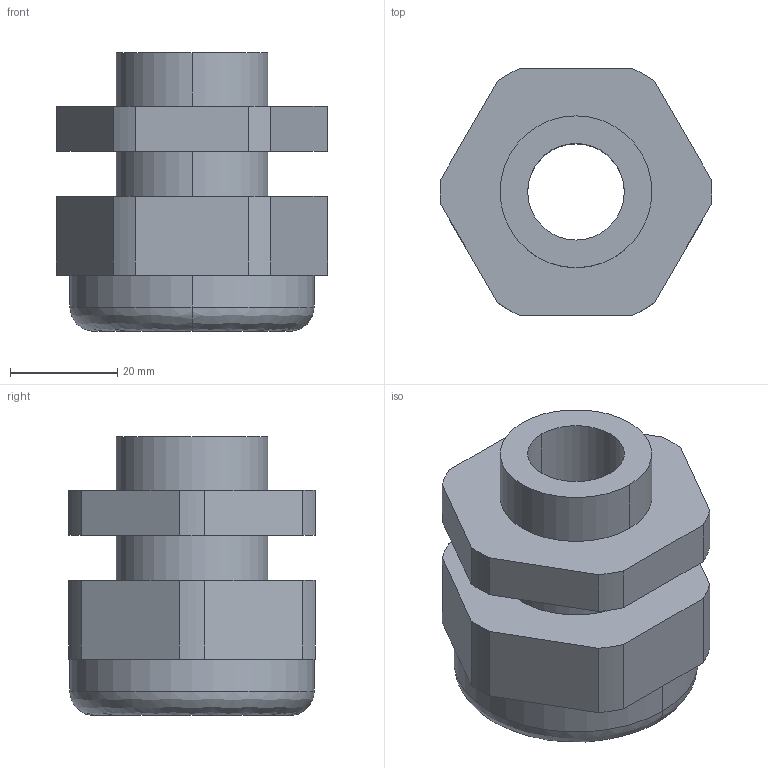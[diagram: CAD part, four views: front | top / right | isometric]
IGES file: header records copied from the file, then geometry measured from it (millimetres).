
Start section:  PTC IGES file: U:\ds\zip\sf\m40.igs
Global section: file name: U:\ds\zip\sf\m40.igs; native system: Pro/ENGINEER by Parametric Technology Corporation; preprocessor: 2003450; author: ds; organization: Unknown; date: 040803.082118; units: millimetre
Bounding box: 50.58 x 46 x 52 mm (x, y, z)
Surface area: 14863.5 mm2 (no closed solid volume)
Topology: 0 solids, 0 shells, 40 faces, 200 edges, 200 vertices
Faces by surface type: revolution 22, bspline 18
